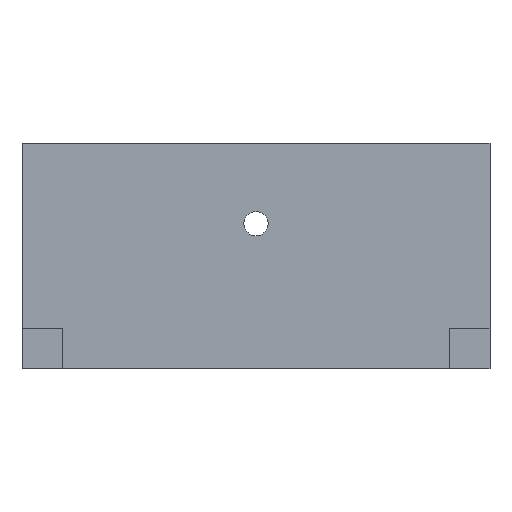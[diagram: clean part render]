
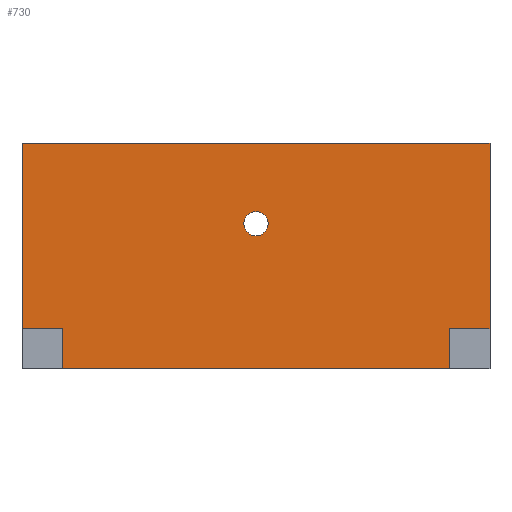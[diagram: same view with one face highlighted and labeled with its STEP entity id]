
A CAD part, front view. The second image highlights one B-rep face of the part: STEP entity #730.
In plain terms, the highlighted planar face has unit normal (0, -1, 0).
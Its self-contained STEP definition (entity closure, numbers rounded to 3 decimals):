
#36=FACE_BOUND('',#148,.T.);
#60=PLANE('',#827);
#96=FACE_OUTER_BOUND('',#147,.T.);
#147=EDGE_LOOP('',(#645,#646,#647,#648,#649,#650,#651,#652));
#148=EDGE_LOOP('',(#653));
#167=LINE('',#1144,#221);
#175=LINE('',#1161,#229);
#180=LINE('',#1268,#234);
#184=LINE('',#1275,#238);
#187=LINE('',#1282,#241);
#191=LINE('',#1290,#245);
#208=LINE('',#1367,#262);
#209=LINE('',#1368,#263);
#221=VECTOR('',#895,10.);
#229=VECTOR('',#907,10.);
#234=VECTOR('',#922,10.);
#238=VECTOR('',#928,10.);
#241=VECTOR('',#935,10.);
#245=VECTOR('',#941,10.);
#262=VECTOR('',#1032,10.);
#263=VECTOR('',#1033,10.);
#285=CIRCLE('',#785,1.5);
#332=VERTEX_POINT('',#1141);
#333=VERTEX_POINT('',#1143);
#340=VERTEX_POINT('',#1159);
#345=VERTEX_POINT('',#1262);
#346=VERTEX_POINT('',#1266);
#347=VERTEX_POINT('',#1267);
#350=VERTEX_POINT('',#1280);
#351=VERTEX_POINT('',#1281);
#354=VERTEX_POINT('',#1289);
#408=EDGE_CURVE('',#333,#332,#167,.T.);
#417=EDGE_CURVE('',#332,#340,#175,.T.);
#425=EDGE_CURVE('',#345,#345,#285,.T.);
#426=EDGE_CURVE('',#346,#347,#180,.T.);
#430=EDGE_CURVE('',#347,#333,#184,.T.);
#433=EDGE_CURVE('',#350,#351,#187,.T.);
#437=EDGE_CURVE('',#354,#350,#191,.T.);
#475=EDGE_CURVE('',#354,#340,#208,.T.);
#476=EDGE_CURVE('',#351,#346,#209,.T.);
#645=ORIENTED_EDGE('',*,*,#430,.T.);
#646=ORIENTED_EDGE('',*,*,#408,.T.);
#647=ORIENTED_EDGE('',*,*,#417,.T.);
#648=ORIENTED_EDGE('',*,*,#475,.F.);
#649=ORIENTED_EDGE('',*,*,#437,.T.);
#650=ORIENTED_EDGE('',*,*,#433,.T.);
#651=ORIENTED_EDGE('',*,*,#476,.T.);
#652=ORIENTED_EDGE('',*,*,#426,.T.);
#653=ORIENTED_EDGE('',*,*,#425,.T.);
#730=ADVANCED_FACE('',(#96,#36),#60,.T.);
#785=AXIS2_PLACEMENT_3D('',#1264,#918,#919);
#827=AXIS2_PLACEMENT_3D('',#1366,#1030,#1031);
#895=DIRECTION('',(0.,0.,1.));
#907=DIRECTION('',(-1.,0.,0.));
#918=DIRECTION('center_axis',(0.,1.,0.));
#919=DIRECTION('ref_axis',(1.,0.,0.));
#922=DIRECTION('',(0.,0.,1.));
#928=DIRECTION('',(1.,0.,0.));
#935=DIRECTION('',(0.,0.,-1.));
#941=DIRECTION('',(1.,0.,0.));
#1030=DIRECTION('center_axis',(0.,-1.,0.));
#1031=DIRECTION('ref_axis',(1.,0.,0.));
#1032=DIRECTION('',(0.,0.,1.));
#1033=DIRECTION('',(1.,0.,0.));
#1141=CARTESIAN_POINT('',(49.657,-20.,28.));
#1143=CARTESIAN_POINT('',(49.657,-20.,5.));
#1144=CARTESIAN_POINT('',(49.657,-20.,0.));
#1159=CARTESIAN_POINT('',(-8.344,-20.,28.));
#1161=CARTESIAN_POINT('',(49.657,-20.,28.));
#1262=CARTESIAN_POINT('',(19.157,-20.,18.));
#1264=CARTESIAN_POINT('Origin',(20.657,-20.,18.));
#1266=CARTESIAN_POINT('',(44.657,-20.,0.));
#1267=CARTESIAN_POINT('',(44.657,-20.,5.));
#1268=CARTESIAN_POINT('',(44.657,-20.,2.5));
#1275=CARTESIAN_POINT('',(20.657,-20.,5.));
#1280=CARTESIAN_POINT('',(-3.344,-20.,5.));
#1281=CARTESIAN_POINT('',(-3.344,-20.,0.));
#1282=CARTESIAN_POINT('',(-3.344,-20.,0.));
#1289=CARTESIAN_POINT('',(-8.344,-20.,5.));
#1290=CARTESIAN_POINT('',(-5.844,-20.,5.));
#1366=CARTESIAN_POINT('Origin',(-8.344,-20.,0.));
#1367=CARTESIAN_POINT('',(-8.344,-20.,0.));
#1368=CARTESIAN_POINT('',(-8.344,-20.,0.));
